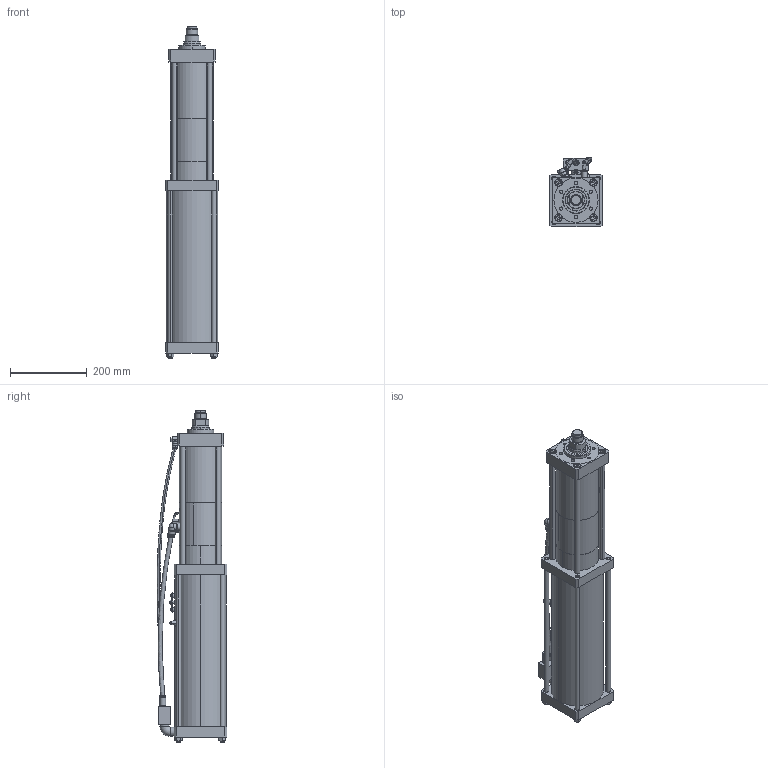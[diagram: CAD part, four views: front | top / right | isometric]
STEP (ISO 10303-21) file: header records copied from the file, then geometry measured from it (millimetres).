
FILE_DESCRIPTION (( 'STEP AP203' ), '1' );
FILE_NAME ('BS08-100-12S.step', '2025-07-31T09:39:45', ( 'Ranlm' ), ( '' ), 'SwSTEP 2.0', 'SolidWorks 2022', '' );
FILE_SCHEMA (( 'CONFIG_CONTROL_DESIGN' ));
Length unit declared in the file: millimetre
Products named in the file (1): BS08-100-12S
Bounding box: 137 x 181.33 x 864 mm (x, y, z)
Surface area: 635832.5 mm2 (no closed solid volume)
Topology: 0 solids, 55 shells, 505 faces, 1423 edges, 946 vertices
Faces by surface type: plane 235, cylinder 178, cone 65, torus 20, bspline 6, sphere 1
Entity records: 17763 total; most frequent: CARTESIAN_POINT 4443, DIRECTION 2989, ORIENTED_EDGE 2347, EDGE_CURVE 1409, AXIS2_PLACEMENT_3D 1141, VERTEX_POINT 945, VECTOR 707, LINE 707
